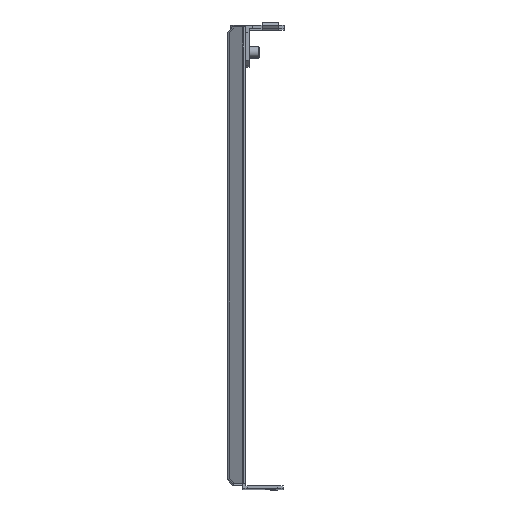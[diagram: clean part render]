
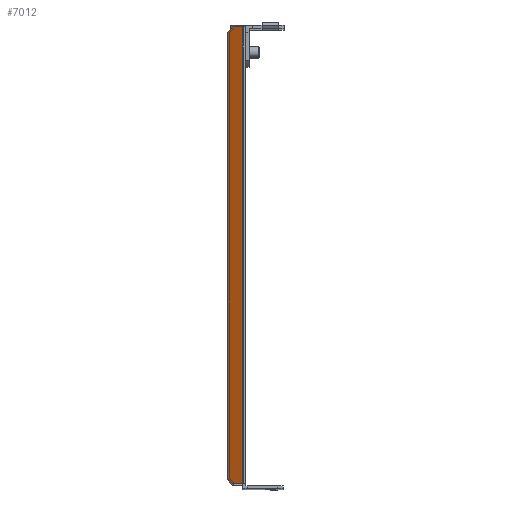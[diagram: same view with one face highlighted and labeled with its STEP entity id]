
A CAD part, top view. The second image highlights one B-rep face of the part: STEP entity #7012.
In plain terms, the highlighted planar face has unit normal (-0.5, 0, 0.866).
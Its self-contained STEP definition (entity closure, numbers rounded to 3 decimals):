
#250 = CARTESIAN_POINT ( 'NONE',  ( -2.768, 248., 248.648 ) ) ;
#373 = DIRECTION ( 'NONE',  ( -0.866, 0., -0.5 ) ) ;
#408 = DIRECTION ( 'NONE',  ( -0.612, -0.707, -0.354 ) ) ;
#434 = CARTESIAN_POINT ( 'NONE',  ( -2.768, 0., 248.648 ) ) ;
#1000 = VERTEX_POINT ( 'NONE', #2321 ) ;
#1031 = CARTESIAN_POINT ( 'NONE',  ( -8.428, 0., 245.38 ) ) ;
#1082 = ORIENTED_EDGE ( 'NONE', *, *, #9030, .T. ) ;
#1436 = CARTESIAN_POINT ( 'NONE',  ( -107.61, 248., 188.118 ) ) ;
#1553 = CARTESIAN_POINT ( 'NONE',  ( -11.026, 0., 243.88 ) ) ;
#1976 = VECTOR ( 'NONE', #14992, 1000. ) ;
#1984 = LINE ( 'NONE', #11688, #12672 ) ;
#2321 = CARTESIAN_POINT ( 'NONE',  ( -11.026, 245., 243.88 ) ) ;
#2995 = VECTOR ( 'NONE', #373, 1000. ) ;
#3729 = DIRECTION ( 'NONE',  ( 0.612, -0.707, 0.354 ) ) ;
#3907 = ORIENTED_EDGE ( 'NONE', *, *, #15432, .T. ) ;
#4307 = VECTOR ( 'NONE', #10913, 1000. ) ;
#4419 = EDGE_CURVE ( 'NONE', #7656, #10865, #10012, .T. ) ;
#4440 = CARTESIAN_POINT ( 'NONE',  ( -8.428, 248., 245.38 ) ) ;
#4566 = DIRECTION ( 'NONE',  ( 0.866, 0., 0.5 ) ) ;
#4678 = ORIENTED_EDGE ( 'NONE', *, *, #13487, .F. ) ;
#4708 = VECTOR ( 'NONE', #3729, 1000. ) ;
#4897 = PLANE ( 'NONE',  #14342 ) ;
#4937 = EDGE_CURVE ( 'NONE', #10865, #8413, #11192, .T. ) ;
#6006 = FACE_OUTER_BOUND ( 'NONE', #6671, .T. ) ;
#6073 = CARTESIAN_POINT ( 'NONE',  ( -5.25, 0., 247.215 ) ) ;
#6402 = CARTESIAN_POINT ( 'NONE',  ( -107.61, 0., 188.118 ) ) ;
#6441 = LINE ( 'NONE', #11300, #7911 ) ;
#6452 = ORIENTED_EDGE ( 'NONE', *, *, #4419, .T. ) ;
#6671 = EDGE_LOOP ( 'NONE', ( #1082, #6703, #4678, #11200, #3907, #10044, #6452, #15599 ) ) ;
#6703 = ORIENTED_EDGE ( 'NONE', *, *, #10783, .T. ) ;
#6756 = DIRECTION ( 'NONE',  ( 0., 1., 0. ) ) ;
#7012 = ADVANCED_FACE ( 'NONE', ( #6006 ), #4897, .F. ) ;
#7434 = VERTEX_POINT ( 'NONE', #434 ) ;
#7656 = VERTEX_POINT ( 'NONE', #9343 ) ;
#7911 = VECTOR ( 'NONE', #408, 1000. ) ;
#8069 = VECTOR ( 'NONE', #4566, 1000. ) ;
#8413 = VERTEX_POINT ( 'NONE', #12780 ) ;
#9030 = EDGE_CURVE ( 'NONE', #8413, #7434, #14333, .T. ) ;
#9343 = CARTESIAN_POINT ( 'NONE',  ( -11.026, 3., 243.88 ) ) ;
#9731 = LINE ( 'NONE', #1436, #4307 ) ;
#9976 = EDGE_CURVE ( 'NONE', #14328, #12551, #13797, .T. ) ;
#9986 = EDGE_CURVE ( 'NONE', #1000, #7656, #12459, .T. ) ;
#10012 = LINE ( 'NONE', #14855, #4708 ) ;
#10044 = ORIENTED_EDGE ( 'NONE', *, *, #9986, .T. ) ;
#10783 = EDGE_CURVE ( 'NONE', #7434, #13975, #1984, .T. ) ;
#10865 = VERTEX_POINT ( 'NONE', #1031 ) ;
#10871 = DIRECTION ( 'NONE',  ( 0.5, 0., -0.866 ) ) ;
#10913 = DIRECTION ( 'NONE',  ( 0.866, 0., 0.5 ) ) ;
#11192 = LINE ( 'NONE', #6402, #12080 ) ;
#11200 = ORIENTED_EDGE ( 'NONE', *, *, #9976, .T. ) ;
#11300 = CARTESIAN_POINT ( 'NONE',  ( -11.026, 245., 243.88 ) ) ;
#11492 = DIRECTION ( 'NONE',  ( 0.866, 0., 0.5 ) ) ;
#11688 = CARTESIAN_POINT ( 'NONE',  ( -2.768, 0., 248.648 ) ) ;
#12080 = VECTOR ( 'NONE', #11492, 1000. ) ;
#12459 = LINE ( 'NONE', #1553, #1976 ) ;
#12551 = VERTEX_POINT ( 'NONE', #4440 ) ;
#12672 = VECTOR ( 'NONE', #6756, 1000. ) ;
#12780 = CARTESIAN_POINT ( 'NONE',  ( -5.25, 0., 247.215 ) ) ;
#13418 = DIRECTION ( 'NONE',  ( 0., -1., 0. ) ) ;
#13487 = EDGE_CURVE ( 'NONE', #14328, #13975, #9731, .T. ) ;
#13495 = CARTESIAN_POINT ( 'NONE',  ( -107.61, 0., 188.118 ) ) ;
#13797 = LINE ( 'NONE', #14916, #2995 ) ;
#13975 = VERTEX_POINT ( 'NONE', #250 ) ;
#14328 = VERTEX_POINT ( 'NONE', #14435 ) ;
#14333 = LINE ( 'NONE', #6073, #8069 ) ;
#14342 = AXIS2_PLACEMENT_3D ( 'NONE', #13495, #10871, #13418 ) ;
#14435 = CARTESIAN_POINT ( 'NONE',  ( -5.25, 248., 247.215 ) ) ;
#14855 = CARTESIAN_POINT ( 'NONE',  ( -8.428, 0., 245.38 ) ) ;
#14916 = CARTESIAN_POINT ( 'NONE',  ( -107.61, 248., 188.118 ) ) ;
#14992 = DIRECTION ( 'NONE',  ( 0., -1., 0. ) ) ;
#15432 = EDGE_CURVE ( 'NONE', #12551, #1000, #6441, .T. ) ;
#15599 = ORIENTED_EDGE ( 'NONE', *, *, #4937, .T. ) ;
